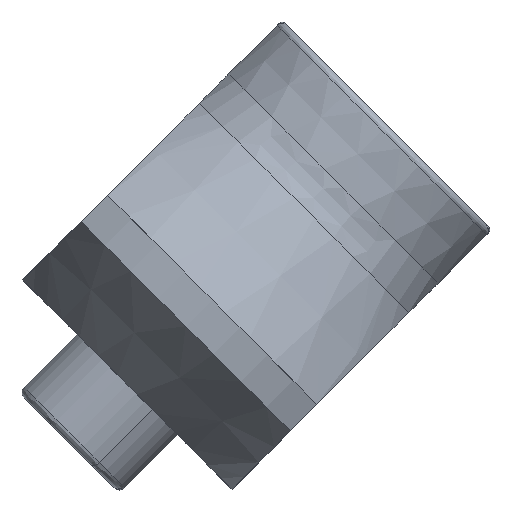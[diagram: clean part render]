
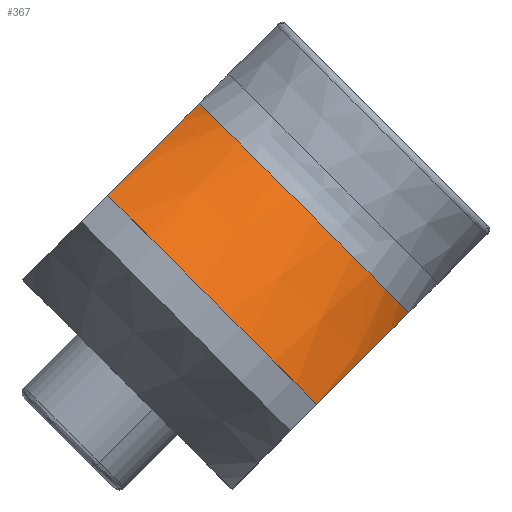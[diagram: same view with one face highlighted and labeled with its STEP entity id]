
A CAD part, front view. The second image highlights one B-rep face of the part: STEP entity #367.
In plain terms, the highlighted conical face has half-angle 24.982 degrees and reference radius 6 mm.
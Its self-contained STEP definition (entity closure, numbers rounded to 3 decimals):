
#48 = EDGE_LOOP ( 'NONE', ( #844, #1715, #1559, #450 ) ) ;
#79 = AXIS2_PLACEMENT_3D ( 'NONE', #639, #623, #724 ) ;
#126 = EDGE_CURVE ( 'NONE', #1434, #1642, #232, .T. ) ;
#163 = B_SPLINE_CURVE_WITH_KNOTS ( 'NONE', 3,
 ( #664, #1542, #1252, #370, #1408, #524, #1550, #669 ),
 .UNSPECIFIED., .F., .F.,
 ( 4, 2, 2, 4 ),
 ( 0., 0.002, 0.003, 0.004 ),
 .UNSPECIFIED. ) ;
#185 = EDGE_CURVE ( 'NONE', #914, #1642, #725, .T. ) ;
#197 = CARTESIAN_POINT ( 'NONE',  ( -0.862, 1.31, 0. ) ) ;
#232 = CIRCLE ( 'NONE', #79, 6. ) ;
#331 = DIRECTION ( 'NONE',  ( 0., -1., 0. ) ) ;
#334 = DIRECTION ( 'NONE',  ( 0., 0., -1. ) ) ;
#344 = CONICAL_SURFACE ( 'NONE', #1373, 6., 0.436 ) ;
#349 = AXIS2_PLACEMENT_3D ( 'NONE', #197, #331, #334 ) ;
#367 = ADVANCED_FACE ( 'NONE', ( #1620 ), #344, .T. ) ;
#370 = CARTESIAN_POINT ( 'NONE',  ( 2.236, -0.053, 3.95 ) ) ;
#450 = ORIENTED_EDGE ( 'NONE', *, *, #1115, .F. ) ;
#507 = CARTESIAN_POINT ( 'NONE',  ( 1.036, 1.31, 3.95 ) ) ;
#524 = CARTESIAN_POINT ( 'NONE',  ( 1.55, 0.791, 3.95 ) ) ;
#533 = EDGE_CURVE ( 'NONE', #914, #1080, #964, .T. ) ;
#586 = DIRECTION ( 'NONE',  ( 0., -1., 0. ) ) ;
#623 = DIRECTION ( 'NONE',  ( 0., 1., 0. ) ) ;
#639 = CARTESIAN_POINT ( 'NONE',  ( -0.862, -2.161, 0. ) ) ;
#664 = CARTESIAN_POINT ( 'NONE',  ( 3.654, -2.161, 3.95 ) ) ;
#669 = CARTESIAN_POINT ( 'NONE',  ( 1.036, 1.31, 3.95 ) ) ;
#692 = CARTESIAN_POINT ( 'NONE',  ( 3.654, -2.161, 3.95 ) ) ;
#724 = DIRECTION ( 'NONE',  ( 0., 0., -1. ) ) ;
#725 = B_SPLINE_CURVE_WITH_KNOTS ( 'NONE', 3,
 ( #1543, #1218, #1613, #1474, #1537, #1240, #1790, #1763 ),
 .UNSPECIFIED., .F., .F.,
 ( 4, 2, 2, 4 ),
 ( 0., 0.001, 0.002, 0.004 ),
 .UNSPECIFIED. ) ;
#729 = DIRECTION ( 'NONE',  ( 0., 0., -1. ) ) ;
#844 = ORIENTED_EDGE ( 'NONE', *, *, #126, .T. ) ;
#914 = VERTEX_POINT ( 'NONE', #1476 ) ;
#964 = CIRCLE ( 'NONE', #349, 4.382 ) ;
#1080 = VERTEX_POINT ( 'NONE', #507 ) ;
#1115 = EDGE_CURVE ( 'NONE', #1434, #1080, #163, .T. ) ;
#1218 = CARTESIAN_POINT ( 'NONE',  ( 1.305, 1.06, -3.95 ) ) ;
#1240 = CARTESIAN_POINT ( 'NONE',  ( 2.875, -0.934, -3.95 ) ) ;
#1252 = CARTESIAN_POINT ( 'NONE',  ( 2.875, -0.934, 3.95 ) ) ;
#1284 = CARTESIAN_POINT ( 'NONE',  ( 3.654, -2.161, -3.95 ) ) ;
#1373 = AXIS2_PLACEMENT_3D ( 'NONE', #1616, #586, #729 ) ;
#1408 = CARTESIAN_POINT ( 'NONE',  ( 2.016, 0.234, 3.95 ) ) ;
#1434 = VERTEX_POINT ( 'NONE', #692 ) ;
#1474 = CARTESIAN_POINT ( 'NONE',  ( 2.016, 0.234, -3.95 ) ) ;
#1476 = CARTESIAN_POINT ( 'NONE',  ( 1.036, 1.31, -3.95 ) ) ;
#1537 = CARTESIAN_POINT ( 'NONE',  ( 2.236, -0.053, -3.95 ) ) ;
#1542 = CARTESIAN_POINT ( 'NONE',  ( 3.271, -1.543, 3.95 ) ) ;
#1543 = CARTESIAN_POINT ( 'NONE',  ( 1.036, 1.31, -3.95 ) ) ;
#1550 = CARTESIAN_POINT ( 'NONE',  ( 1.305, 1.06, 3.95 ) ) ;
#1559 = ORIENTED_EDGE ( 'NONE', *, *, #533, .T. ) ;
#1613 = CARTESIAN_POINT ( 'NONE',  ( 1.55, 0.791, -3.95 ) ) ;
#1616 = CARTESIAN_POINT ( 'NONE',  ( -0.862, -2.161, 0. ) ) ;
#1620 = FACE_OUTER_BOUND ( 'NONE', #48, .T. ) ;
#1642 = VERTEX_POINT ( 'NONE', #1284 ) ;
#1715 = ORIENTED_EDGE ( 'NONE', *, *, #185, .F. ) ;
#1763 = CARTESIAN_POINT ( 'NONE',  ( 3.654, -2.161, -3.95 ) ) ;
#1790 = CARTESIAN_POINT ( 'NONE',  ( 3.271, -1.543, -3.95 ) ) ;
